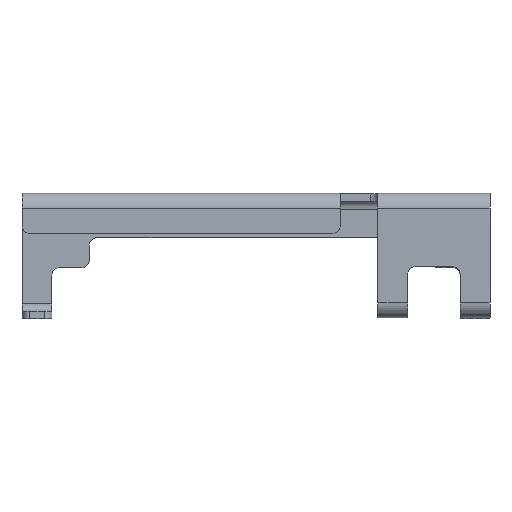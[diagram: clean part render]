
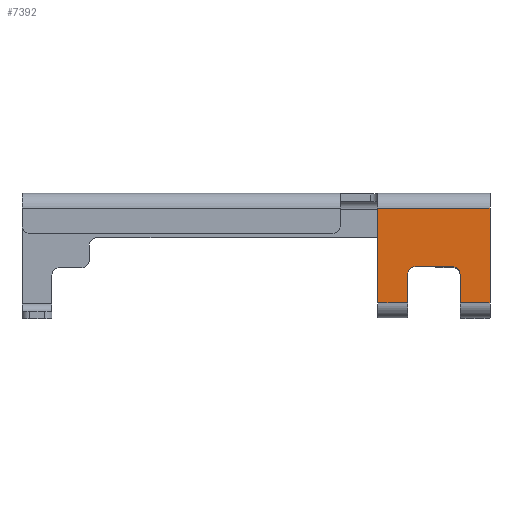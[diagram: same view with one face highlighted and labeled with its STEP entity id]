
A CAD part, top view. The second image highlights one B-rep face of the part: STEP entity #7392.
In plain terms, the highlighted planar face has unit normal (0, 0, 1).
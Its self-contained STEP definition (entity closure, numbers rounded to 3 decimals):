
#1421 = CIRCLE ( 'NONE', #8049, 0.2 ) ;
#1458 = VECTOR ( 'NONE', #11581, 1000. ) ;
#1465 = LINE ( 'NONE', #11292, #1748 ) ;
#1486 = LINE ( 'NONE', #11350, #1725 ) ;
#1558 = CIRCLE ( 'NONE', #7727, 0.2 ) ;
#1565 = VECTOR ( 'NONE', #11175, 1000. ) ;
#1586 = LINE ( 'NONE', #11161, #1587 ) ;
#1587 = VECTOR ( 'NONE', #11163, 1000. ) ;
#1669 = LINE ( 'NONE', #11242, #1710 ) ;
#1678 = VECTOR ( 'NONE', #11172, 1000. ) ;
#1710 = VECTOR ( 'NONE', #11243, 1000. ) ;
#1725 = VECTOR ( 'NONE', #11361, 1000. ) ;
#1748 = VECTOR ( 'NONE', #11283, 1000. ) ;
#1749 = LINE ( 'NONE', #11174, #1565 ) ;
#1799 = LINE ( 'NONE', #11264, #1803 ) ;
#1801 = LINE ( 'NONE', #11178, #1678 ) ;
#1803 = VECTOR ( 'NONE', #11262, 1000. ) ;
#1926 = CARTESIAN_POINT ( 'NONE',  ( 11.7, -1.864, 0.2 ) ) ;
#1932 = CARTESIAN_POINT ( 'NONE',  ( 10.3, -1.864, 0.2 ) ) ;
#1972 = CARTESIAN_POINT ( 'NONE',  ( 11.5, -0.9, 0.2 ) ) ;
#1979 = CARTESIAN_POINT ( 'NONE',  ( 10.5, -0.9, 0.2 ) ) ;
#2008 = CARTESIAN_POINT ( 'NONE',  ( 10.3, -1.1, 0.2 ) ) ;
#2013 = CARTESIAN_POINT ( 'NONE',  ( 12.5, -1.864, 0.2 ) ) ;
#2395 = CARTESIAN_POINT ( 'NONE',  ( 12.5, 0.664, 0.2 ) ) ;
#2397 = CARTESIAN_POINT ( 'NONE',  ( 9.5, 0.664, 0.2 ) ) ;
#3027 = CARTESIAN_POINT ( 'NONE',  ( 9.5, -1.864, 0.2 ) ) ;
#4649 = CARTESIAN_POINT ( 'NONE',  ( 11.7, -1.1, 0.2 ) ) ;
#5777 = DIRECTION ( 'NONE',  ( 1., 0., 0. ) ) ;
#6418 = DIRECTION ( 'NONE',  ( 0., 0., 1. ) ) ;
#6423 = CARTESIAN_POINT ( 'NONE',  ( 10.5, -1.1, 0.2 ) ) ;
#6430 = PLANE ( 'NONE',  #7861 ) ;
#7392 = ADVANCED_FACE ( 'NONE', ( #15064 ), #6430, .T. ) ;
#7727 = AXIS2_PLACEMENT_3D ( 'NONE', #11556, #11555, #11544 ) ;
#7770 = EDGE_CURVE ( 'NONE', #18173, #18180, #15649, .T. ) ;
#7774 = EDGE_CURVE ( 'NONE', #18144, #18173, #1558, .T. ) ;
#7861 = AXIS2_PLACEMENT_3D ( 'NONE', #6423, #6418, #5777 ) ;
#7928 = EDGE_CURVE ( 'NONE', #18603, #18606, #1486, .T. ) ;
#8049 = AXIS2_PLACEMENT_3D ( 'NONE', #11165, #11142, #11143 ) ;
#8096 = EDGE_CURVE ( 'NONE', #18129, #18413, #1465, .T. ) ;
#8105 = EDGE_CURVE ( 'NONE', #18603, #19126, #1799, .T. ) ;
#8109 = EDGE_CURVE ( 'NONE', #19175, #18413, #1669, .T. ) ;
#8120 = EDGE_CURVE ( 'NONE', #18401, #19126, #1749, .T. ) ;
#8122 = EDGE_CURVE ( 'NONE', #18129, #18606, #1801, .T. ) ;
#8125 = EDGE_CURVE ( 'NONE', #18401, #18144, #1586, .T. ) ;
#8128 = EDGE_CURVE ( 'NONE', #18180, #19175, #1421, .T. ) ;
#11142 = DIRECTION ( 'NONE',  ( 0., 0., -1. ) ) ;
#11143 = DIRECTION ( 'NONE',  ( 1., 0., 0. ) ) ;
#11161 = CARTESIAN_POINT ( 'NONE',  ( 10.3, -1.1, 0.2 ) ) ;
#11163 = DIRECTION ( 'NONE',  ( 0., 1., 0. ) ) ;
#11165 = CARTESIAN_POINT ( 'NONE',  ( 11.5, -1.1, 0.2 ) ) ;
#11172 = DIRECTION ( 'NONE',  ( 0., 1., 0. ) ) ;
#11174 = CARTESIAN_POINT ( 'NONE',  ( 10.5, -1.864, 0.2 ) ) ;
#11175 = DIRECTION ( 'NONE',  ( -1., 0., 0. ) ) ;
#11178 = CARTESIAN_POINT ( 'NONE',  ( 12.5, 17., 0.2 ) ) ;
#11242 = CARTESIAN_POINT ( 'NONE',  ( 11.7, -1.1, 0.2 ) ) ;
#11243 = DIRECTION ( 'NONE',  ( 0., -1., 0. ) ) ;
#11262 = DIRECTION ( 'NONE',  ( 0., -1., 0. ) ) ;
#11264 = CARTESIAN_POINT ( 'NONE',  ( 9.5, -3.1, 0.2 ) ) ;
#11283 = DIRECTION ( 'NONE',  ( -1., 0., 0. ) ) ;
#11292 = CARTESIAN_POINT ( 'NONE',  ( 10.5, -1.864, 0.2 ) ) ;
#11350 = CARTESIAN_POINT ( 'NONE',  ( 10.5, 0.664, 0.2 ) ) ;
#11361 = DIRECTION ( 'NONE',  ( 1., 0., 0. ) ) ;
#11544 = DIRECTION ( 'NONE',  ( 1., 0., 0. ) ) ;
#11555 = DIRECTION ( 'NONE',  ( 0., 0., -1. ) ) ;
#11556 = CARTESIAN_POINT ( 'NONE',  ( 10.5, -1.1, 0.2 ) ) ;
#11581 = DIRECTION ( 'NONE',  ( 1., 0., 0. ) ) ;
#11584 = CARTESIAN_POINT ( 'NONE',  ( 10.5, -0.9, 0.2 ) ) ;
#15064 = FACE_OUTER_BOUND ( 'NONE', #16939, .T. ) ;
#15222 = ORIENTED_EDGE ( 'NONE', *, *, #8128, .T. ) ;
#15239 = ORIENTED_EDGE ( 'NONE', *, *, #8120, .F. ) ;
#15261 = ORIENTED_EDGE ( 'NONE', *, *, #8105, .T. ) ;
#15262 = ORIENTED_EDGE ( 'NONE', *, *, #7928, .F. ) ;
#15263 = ORIENTED_EDGE ( 'NONE', *, *, #8125, .T. ) ;
#15264 = ORIENTED_EDGE ( 'NONE', *, *, #7770, .T. ) ;
#15265 = ORIENTED_EDGE ( 'NONE', *, *, #7774, .T. ) ;
#15266 = ORIENTED_EDGE ( 'NONE', *, *, #8109, .T. ) ;
#15267 = ORIENTED_EDGE ( 'NONE', *, *, #8122, .T. ) ;
#15268 = ORIENTED_EDGE ( 'NONE', *, *, #8096, .F. ) ;
#15649 = LINE ( 'NONE', #11584, #1458 ) ;
#16939 = EDGE_LOOP ( 'NONE', ( #15262, #15261, #15239, #15263, #15265, #15264, #15222, #15266, #15268, #15267 ) ) ;
#18129 = VERTEX_POINT ( 'NONE', #2013 ) ;
#18144 = VERTEX_POINT ( 'NONE', #2008 ) ;
#18173 = VERTEX_POINT ( 'NONE', #1979 ) ;
#18180 = VERTEX_POINT ( 'NONE', #1972 ) ;
#18401 = VERTEX_POINT ( 'NONE', #1932 ) ;
#18413 = VERTEX_POINT ( 'NONE', #1926 ) ;
#18603 = VERTEX_POINT ( 'NONE', #2397 ) ;
#18606 = VERTEX_POINT ( 'NONE', #2395 ) ;
#19126 = VERTEX_POINT ( 'NONE', #3027 ) ;
#19175 = VERTEX_POINT ( 'NONE', #4649 ) ;
